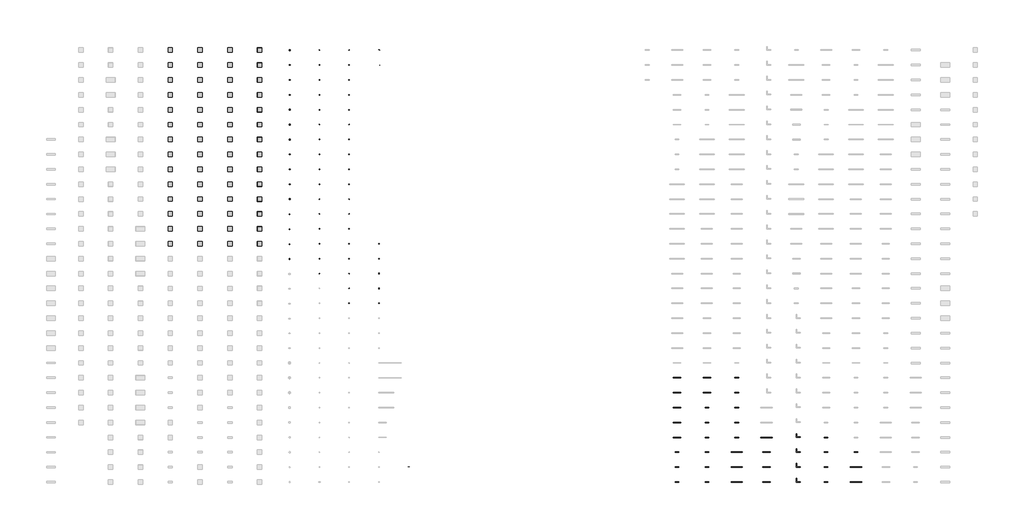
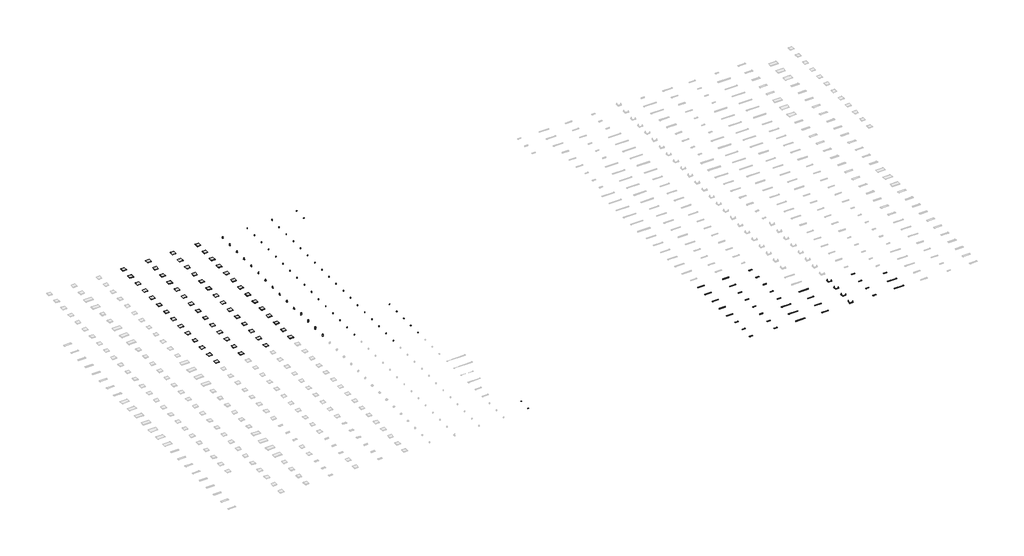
# One storey, part 5 of 7: 153 light fixtures.
"""IFC4 building model written with IfcOpenShell, lengths in millimetres."""

from ifc_helpers import new_model, si_unit, origin, place, context, project, spatial, transform, mapped, element, save
from components import light_fixture_58f65422, light_fixture_3ed5fcd1, light_fixture_10212c1c, light_fixture_f376c791, light_fixture_39556fc3, light_fixture_68ade39e, light_fixture_24229492, light_fixture_68bc1c10, light_fixture_a84a45fd, light_fixture_b95e81a3, light_fixture_23b743e3, light_fixture_90001b4d, light_fixture_045715e0, light_fixture_5221eba1, light_fixture_2bea209e, light_fixture_b40a6a63

model = new_model("IFC4")

# Units and contexts
model_context = context("Model", 3, world=origin())
ifc_project = project(units=[si_unit("LENGTHUNIT", "METRE", prefix="MILLI")], contexts=[model_context])

# Site, building, storey
site = spatial("IfcSite", under=ifc_project)
building = spatial("IfcBuilding", under=site)
storey = spatial("IfcBuildingStorey", under=building, Name="Уровень 1", Elevation=0.0)

# Light fixtures
placement = place(None, origin())
light_fixture_shape = light_fixture_58f65422(model_context)
element("IfcLightFixture", 1, ObjectType="GENILED_Светильник светодиодный_Офис Standart : Офис Standart 595x595x20 50Вт Ra90 Опал", at=placement, inside=storey, context=model_context, shape_type="MappedRepresentation", body=[
    mapped(light_fixture_shape, transform((64000.0, 32000.0, 0.0), x_axis=(1.0, 0.0, 0.0), y_axis=(0.0, 1.0, 0.0), z_axis=(0.0, 0.0, 1.0))),
])
element("IfcLightFixture", 2, ObjectType="GENILED_Светильник светодиодный_Офис Standart : Офис Standart 595x595x20 60Вт Ra90 Опал", at=placement, inside=storey, context=model_context, shape_type="MappedRepresentation", body=[
    mapped(light_fixture_shape, transform((64000.0, 34000.0, 0.0), x_axis=(1.0, 0.0, 0.0), y_axis=(0.0, 1.0, 0.0), z_axis=(0.0, 0.0, 1.0))),
])
element("IfcLightFixture", 3, ObjectType="GENILED_Светильник светодиодный_Офис Standart : Офис Standart 595x595x20 80Вт Ra90 Опал", at=placement, inside=storey, context=model_context, shape_type="MappedRepresentation", body=[
    mapped(light_fixture_shape, transform((64000.0, 36000.0, 0.0), x_axis=(1.0, 0.0, 0.0), y_axis=(0.0, 1.0, 0.0), z_axis=(0.0, 0.0, 1.0))),
])
element("IfcLightFixture", 4, ObjectType="GENILED_Светильник светодиодный_Офис Standart : Офис Standart 595x595x20 100Вт Ra90 Опал", at=placement, inside=storey, context=model_context, shape_type="MappedRepresentation", body=[
    mapped(light_fixture_shape, transform((64000.0, 38000.0, 0.0), x_axis=(1.0, 0.0, 0.0), y_axis=(0.0, 1.0, 0.0), z_axis=(0.0, 0.0, 1.0))),
])
light_fixture_2_shape = light_fixture_3ed5fcd1(model_context)
element("IfcLightFixture", 5, ObjectType="GENILED_Светильник светодиодный_Офис Standart : Офис Standart 595x595x40 30Вт Ra90 Опал", at=placement, inside=storey, context=model_context, shape_type="MappedRepresentation", body=[
    mapped(light_fixture_2_shape, transform((64000.0, 40000.0, 0.0), x_axis=(1.0, 0.0, 0.0), y_axis=(0.0, 1.0, 0.0), z_axis=(0.0, 0.0, 1.0))),
])
element("IfcLightFixture", 6, ObjectType="GENILED_Светильник светодиодный_Офис Standart : Офис Standart 595x595x40 40Вт Ra90 Опал", at=placement, inside=storey, context=model_context, shape_type="MappedRepresentation", body=[
    mapped(light_fixture_2_shape, transform((64000.0, 42000.0, 0.0), x_axis=(1.0, 0.0, 0.0), y_axis=(0.0, 1.0, 0.0), z_axis=(0.0, 0.0, 1.0))),
])
element("IfcLightFixture", 7, ObjectType="GENILED_Светильник светодиодный_Офис Standart : Офис Standart 595x595x40 50Вт Ra90 Опал", at=placement, inside=storey, context=model_context, shape_type="MappedRepresentation", body=[
    mapped(light_fixture_2_shape, transform((64000.0, 44000.0, 0.0), x_axis=(1.0, 0.0, 0.0), y_axis=(0.0, 1.0, 0.0), z_axis=(0.0, 0.0, 1.0))),
])
element("IfcLightFixture", 8, ObjectType="GENILED_Светильник светодиодный_Офис Standart : Офис Standart 595x595x40 60Вт Ra90 Опал", at=placement, inside=storey, context=model_context, shape_type="MappedRepresentation", body=[
    mapped(light_fixture_2_shape, transform((64000.0, 46000.0, 0.0), x_axis=(1.0, 0.0, 0.0), y_axis=(0.0, 1.0, 0.0), z_axis=(0.0, 0.0, 1.0))),
])
element("IfcLightFixture", 9, ObjectType="GENILED_Светильник светодиодный_Офис Standart : Офис Standart 595x595x40 80Вт Ra90 Опал", at=placement, inside=storey, context=model_context, shape_type="MappedRepresentation", body=[
    mapped(light_fixture_2_shape, transform((64000.0, 48000.0, 0.0), x_axis=(1.0, 0.0, 0.0), y_axis=(0.0, 1.0, 0.0), z_axis=(0.0, 0.0, 1.0))),
])
element("IfcLightFixture", 10, ObjectType="GENILED_Светильник светодиодный_Офис Standart : Офис Standart 595x595x40 100Вт Ra90 Опал", at=placement, inside=storey, context=model_context, shape_type="MappedRepresentation", body=[
    mapped(light_fixture_2_shape, transform((64000.0, 50000.0, 0.0), x_axis=(1.0, 0.0, 0.0), y_axis=(0.0, 1.0, 0.0), z_axis=(0.0, 0.0, 1.0))),
])
light_fixture_3_shape = light_fixture_10212c1c(model_context)
element("IfcLightFixture", 11, ObjectType="GENILED_Светильник светодиодный_Офис Standart : Офис Standart 595x595x45 30Вт Ra90 IP54 Опал", at=placement, inside=storey, context=model_context, shape_type="MappedRepresentation", body=[
    mapped(light_fixture_3_shape, transform((64000.0, 52000.0, 0.0), x_axis=(1.0, 0.0, 0.0), y_axis=(0.0, 1.0, 0.0), z_axis=(0.0, 0.0, 1.0))),
])
element("IfcLightFixture", 12, ObjectType="GENILED_Светильник светодиодный_Офис Standart : Офис Standart 595x595x45 40Вт Ra90 IP54 Опал", at=placement, inside=storey, context=model_context, shape_type="MappedRepresentation", body=[
    mapped(light_fixture_3_shape, transform((64000.0, 54000.0, 0.0), x_axis=(1.0, 0.0, 0.0), y_axis=(0.0, 1.0, 0.0), z_axis=(0.0, 0.0, 1.0))),
])
element("IfcLightFixture", 13, ObjectType="GENILED_Светильник светодиодный_Офис Standart : Офис Standart 595x595x45 50Вт Ra90 IP54 Опал", at=placement, inside=storey, context=model_context, shape_type="MappedRepresentation", body=[
    mapped(light_fixture_3_shape, transform((64000.0, 56000.0, 0.0), x_axis=(1.0, 0.0, 0.0), y_axis=(0.0, 1.0, 0.0), z_axis=(0.0, 0.0, 1.0))),
])
element("IfcLightFixture", 14, ObjectType="GENILED_Светильник светодиодный_Офис Standart : Офис Standart 595x595x45 60Вт Ra90 IP54 Опал", at=placement, inside=storey, context=model_context, shape_type="MappedRepresentation", body=[
    mapped(light_fixture_3_shape, transform((64000.0, 58000.0, 0.0), x_axis=(1.0, 0.0, 0.0), y_axis=(0.0, 1.0, 0.0), z_axis=(0.0, 0.0, 1.0))),
])
light_fixture_4_shape = light_fixture_f376c791(model_context)
element("IfcLightFixture", 15, ObjectType="GENILED_Светильник светодиодный_Офис Standart : Офис Standart 595x595x25 60Вт IP54 Опал", at=placement, inside=storey, context=model_context, shape_type="MappedRepresentation", body=[
    mapped(light_fixture_4_shape, transform((68000.0, 32000.0, 0.0), x_axis=(1.0, 0.0, 0.0), y_axis=(0.0, 1.0, 0.0), z_axis=(0.0, 0.0, 1.0))),
])
element("IfcLightFixture", 16, ObjectType="GENILED_Светильник светодиодный_Офис Standart : Офис Standart 595х595х25 50Вт IP54 Опал", at=placement, inside=storey, context=model_context, shape_type="MappedRepresentation", body=[
    mapped(light_fixture_4_shape, transform((68000.0, 34000.0, 0.0), x_axis=(1.0, 0.0, 0.0), y_axis=(0.0, 1.0, 0.0), z_axis=(0.0, 0.0, 1.0))),
])
element("IfcLightFixture", 17, ObjectType="GENILED_Светильник светодиодный_Офис Standart : Офис Standart 595x595x40 30Вт Опал", at=placement, inside=storey, context=model_context, shape_type="MappedRepresentation", body=[
    mapped(light_fixture_2_shape, transform((68000.0, 36000.0, 0.0), x_axis=(1.0, 0.0, 0.0), y_axis=(0.0, 1.0, 0.0), z_axis=(0.0, 0.0, 1.0))),
])
element("IfcLightFixture", 18, ObjectType="GENILED_Светильник светодиодный_Офис Standart : Офис Standart 595x595x40 40Вт Опал", at=placement, inside=storey, context=model_context, shape_type="MappedRepresentation", body=[
    mapped(light_fixture_2_shape, transform((68000.0, 38000.0, 0.0), x_axis=(1.0, 0.0, 0.0), y_axis=(0.0, 1.0, 0.0), z_axis=(0.0, 0.0, 1.0))),
])
element("IfcLightFixture", 19, ObjectType="GENILED_Светильник светодиодный_Офис Standart : Офис Standart 595x595x40 50Вт Опал", at=placement, inside=storey, context=model_context, shape_type="MappedRepresentation", body=[
    mapped(light_fixture_2_shape, transform((68000.0, 40000.0, 0.0), x_axis=(1.0, 0.0, 0.0), y_axis=(0.0, 1.0, 0.0), z_axis=(0.0, 0.0, 1.0))),
])
element("IfcLightFixture", 20, ObjectType="GENILED_Светильник светодиодный_Офис Standart : Офис Standart 595x595x40 60Вт Опал", at=placement, inside=storey, context=model_context, shape_type="MappedRepresentation", body=[
    mapped(light_fixture_2_shape, transform((68000.0, 42000.0, 0.0), x_axis=(1.0, 0.0, 0.0), y_axis=(0.0, 1.0, 0.0), z_axis=(0.0, 0.0, 1.0))),
])
element("IfcLightFixture", 21, ObjectType="GENILED_Светильник светодиодный_Офис Standart : Офис Standart 595x595x40 80Вт Опал", at=placement, inside=storey, context=model_context, shape_type="MappedRepresentation", body=[
    mapped(light_fixture_2_shape, transform((68000.0, 44000.0, 0.0), x_axis=(1.0, 0.0, 0.0), y_axis=(0.0, 1.0, 0.0), z_axis=(0.0, 0.0, 1.0))),
])
element("IfcLightFixture", 22, ObjectType="GENILED_Светильник светодиодный_Офис Standart : Офис Standart 595x595x40 100Вт Опал", at=placement, inside=storey, context=model_context, shape_type="MappedRepresentation", body=[
    mapped(light_fixture_2_shape, transform((68000.0, 46000.0, 0.0), x_axis=(1.0, 0.0, 0.0), y_axis=(0.0, 1.0, 0.0), z_axis=(0.0, 0.0, 1.0))),
])
element("IfcLightFixture", 23, ObjectType="GENILED_Светильник светодиодный_Офис Standart : Офис Standart 595x595x45 30Вт IP54 Опал", at=placement, inside=storey, context=model_context, shape_type="MappedRepresentation", body=[
    mapped(light_fixture_3_shape, transform((68000.0, 48000.0, 0.0), x_axis=(1.0, 0.0, 0.0), y_axis=(0.0, 1.0, 0.0), z_axis=(0.0, 0.0, 1.0))),
])
element("IfcLightFixture", 24, ObjectType="GENILED_Светильник светодиодный_Офис Standart : Офис Standart 595x595x45 40Вт IP54 Опал", at=placement, inside=storey, context=model_context, shape_type="MappedRepresentation", body=[
    mapped(light_fixture_3_shape, transform((68000.0, 50000.0, 0.0), x_axis=(1.0, 0.0, 0.0), y_axis=(0.0, 1.0, 0.0), z_axis=(0.0, 0.0, 1.0))),
])
element("IfcLightFixture", 25, ObjectType="GENILED_Светильник светодиодный_Офис Standart : Офис Standart 595x595x45 50Вт IP54 Опал", at=placement, inside=storey, context=model_context, shape_type="MappedRepresentation", body=[
    mapped(light_fixture_3_shape, transform((68000.0, 52000.0, 0.0), x_axis=(1.0, 0.0, 0.0), y_axis=(0.0, 1.0, 0.0), z_axis=(0.0, 0.0, 1.0))),
])
element("IfcLightFixture", 26, ObjectType="GENILED_Светильник светодиодный_Офис Standart : Офис Standart 595x595x45 60Вт IP54 Опал", at=placement, inside=storey, context=model_context, shape_type="MappedRepresentation", body=[
    mapped(light_fixture_3_shape, transform((68000.0, 54000.0, 0.0), x_axis=(1.0, 0.0, 0.0), y_axis=(0.0, 1.0, 0.0), z_axis=(0.0, 0.0, 1.0))),
])
element("IfcLightFixture", 27, ObjectType="GENILED_Светильник светодиодный_Офис Standart : Офис Standart 595x595x45 80Вт IP54 Опал", at=placement, inside=storey, context=model_context, shape_type="MappedRepresentation", body=[
    mapped(light_fixture_3_shape, transform((68000.0, 56000.0, 0.0), x_axis=(1.0, 0.0, 0.0), y_axis=(0.0, 1.0, 0.0), z_axis=(0.0, 0.0, 1.0))),
])
element("IfcLightFixture", 28, ObjectType="GENILED_Светильник светодиодный_Офис Standart : Офис Standart 595x595x45 100Вт IP54 Опал", at=placement, inside=storey, context=model_context, shape_type="MappedRepresentation", body=[
    mapped(light_fixture_3_shape, transform((68000.0, 58000.0, 0.0), x_axis=(1.0, 0.0, 0.0), y_axis=(0.0, 1.0, 0.0), z_axis=(0.0, 0.0, 1.0))),
])
element("IfcLightFixture", 29, ObjectType="GENILED_Светильник светодиодный_Офис Низковольтный : Офис 595x595x20 100Вт 12В Опал", at=placement, inside=storey, context=model_context, shape_type="MappedRepresentation", body=[
    mapped(light_fixture_shape, transform((72000.0, 32000.0, 0.0), x_axis=(1.0, 0.0, 0.0), y_axis=(0.0, 1.0, 0.0), z_axis=(0.0, 0.0, 1.0))),
])
element("IfcLightFixture", 30, ObjectType="GENILED_Светильник светодиодный_Офис Низковольтный : Офис 595x595x20 100Вт 24В Опал", at=placement, inside=storey, context=model_context, shape_type="MappedRepresentation", body=[
    mapped(light_fixture_shape, transform((72000.0, 34000.0, 0.0), x_axis=(1.0, 0.0, 0.0), y_axis=(0.0, 1.0, 0.0), z_axis=(0.0, 0.0, 1.0))),
])
element("IfcLightFixture", 31, ObjectType="GENILED_Светильник светодиодный_Офис Низковольтный : Офис 595x595x40 30Вт 12В Опал", at=placement, inside=storey, context=model_context, shape_type="MappedRepresentation", body=[
    mapped(light_fixture_2_shape, transform((72000.0, 36000.0, 0.0), x_axis=(1.0, 0.0, 0.0), y_axis=(0.0, 1.0, 0.0), z_axis=(0.0, 0.0, 1.0))),
])
element("IfcLightFixture", 32, ObjectType="GENILED_Светильник светодиодный_Офис Низковольтный : Офис 595x595x40 30Вт 36В Опал", at=placement, inside=storey, context=model_context, shape_type="MappedRepresentation", body=[
    mapped(light_fixture_2_shape, transform((72000.0, 38000.0, 0.0), x_axis=(1.0, 0.0, 0.0), y_axis=(0.0, 1.0, 0.0), z_axis=(0.0, 0.0, 1.0))),
])
element("IfcLightFixture", 33, ObjectType="GENILED_Светильник светодиодный_Офис Низковольтный : Офис 595x595x40 40Вт 12В Опал", at=placement, inside=storey, context=model_context, shape_type="MappedRepresentation", body=[
    mapped(light_fixture_2_shape, transform((72000.0, 40000.0, 0.0), x_axis=(1.0, 0.0, 0.0), y_axis=(0.0, 1.0, 0.0), z_axis=(0.0, 0.0, 1.0))),
])
element("IfcLightFixture", 34, ObjectType="GENILED_Светильник светодиодный_Офис Низковольтный : Офис 595x595x40 40Вт 24В Опал", at=placement, inside=storey, context=model_context, shape_type="MappedRepresentation", body=[
    mapped(light_fixture_2_shape, transform((72000.0, 42000.0, 0.0), x_axis=(1.0, 0.0, 0.0), y_axis=(0.0, 1.0, 0.0), z_axis=(0.0, 0.0, 1.0))),
])
element("IfcLightFixture", 35, ObjectType="GENILED_Светильник светодиодный_Офис Низковольтный : Офис 595x595x40 50Вт 12В Опал", at=placement, inside=storey, context=model_context, shape_type="MappedRepresentation", body=[
    mapped(light_fixture_2_shape, transform((72000.0, 44000.0, 0.0), x_axis=(1.0, 0.0, 0.0), y_axis=(0.0, 1.0, 0.0), z_axis=(0.0, 0.0, 1.0))),
])
element("IfcLightFixture", 36, ObjectType="GENILED_Светильник светодиодный_Офис Низковольтный : Офис 595x595x40 60Вт 12В Опал", at=placement, inside=storey, context=model_context, shape_type="MappedRepresentation", body=[
    mapped(light_fixture_2_shape, transform((72000.0, 46000.0, 0.0), x_axis=(1.0, 0.0, 0.0), y_axis=(0.0, 1.0, 0.0), z_axis=(0.0, 0.0, 1.0))),
])
element("IfcLightFixture", 37, ObjectType="GENILED_Светильник светодиодный_Офис Низковольтный : Офис 595x595x40 60Вт 24В Опал", at=placement, inside=storey, context=model_context, shape_type="MappedRepresentation", body=[
    mapped(light_fixture_2_shape, transform((72000.0, 48000.0, 0.0), x_axis=(1.0, 0.0, 0.0), y_axis=(0.0, 1.0, 0.0), z_axis=(0.0, 0.0, 1.0))),
])
element("IfcLightFixture", 38, ObjectType="GENILED_Светильник светодиодный_Офис Низковольтный : Офис 595x595x40 60Вт 36В Опал", at=placement, inside=storey, context=model_context, shape_type="MappedRepresentation", body=[
    mapped(light_fixture_2_shape, transform((72000.0, 50000.0, 0.0), x_axis=(1.0, 0.0, 0.0), y_axis=(0.0, 1.0, 0.0), z_axis=(0.0, 0.0, 1.0))),
])
element("IfcLightFixture", 39, ObjectType="GENILED_Светильник светодиодный_Офис Низковольтный : Офис 595x595x40 80Вт 12В Опал", at=placement, inside=storey, context=model_context, shape_type="MappedRepresentation", body=[
    mapped(light_fixture_2_shape, transform((72000.0, 52000.0, 0.0), x_axis=(1.0, 0.0, 0.0), y_axis=(0.0, 1.0, 0.0), z_axis=(0.0, 0.0, 1.0))),
])
element("IfcLightFixture", 40, ObjectType="GENILED_Светильник светодиодный_Офис Низковольтный : Офис 595x595x40 80Вт 24В Опал", at=placement, inside=storey, context=model_context, shape_type="MappedRepresentation", body=[
    mapped(light_fixture_2_shape, transform((72000.0, 54000.0, 0.0), x_axis=(1.0, 0.0, 0.0), y_axis=(0.0, 1.0, 0.0), z_axis=(0.0, 0.0, 1.0))),
])
element("IfcLightFixture", 41, ObjectType="GENILED_Светильник светодиодный_Офис Низковольтный : Офис 595x595x40 100Вт 12В Опал", at=placement, inside=storey, context=model_context, shape_type="MappedRepresentation", body=[
    mapped(light_fixture_2_shape, transform((72000.0, 56000.0, 0.0), x_axis=(1.0, 0.0, 0.0), y_axis=(0.0, 1.0, 0.0), z_axis=(0.0, 0.0, 1.0))),
])
element("IfcLightFixture", 42, ObjectType="GENILED_Светильник светодиодный_Офис Низковольтный : Офис 595x595x40 100Вт 24В Опал", at=placement, inside=storey, context=model_context, shape_type="MappedRepresentation", body=[
    mapped(light_fixture_2_shape, transform((72000.0, 58000.0, 0.0), x_axis=(1.0, 0.0, 0.0), y_axis=(0.0, 1.0, 0.0), z_axis=(0.0, 0.0, 1.0))),
])
light_fixture_5_shape = light_fixture_39556fc3(model_context)
element("IfcLightFixture", 43, ObjectType="GENILED_Светильник светодиодный_Экофон Advanced : Экофон Advanced 80Вт Опал", at=placement, inside=storey, context=model_context, shape_type="MappedRepresentation", body=[
    mapped(light_fixture_5_shape, transform((76000.0, 32000.0, 0.0), x_axis=(1.0, 0.0, 0.0), y_axis=(0.0, 1.0, 0.0), z_axis=(0.0, 0.0, 1.0))),
])
element("IfcLightFixture", 44, ObjectType="GENILED_Светильник светодиодный_Экофон Advanced : Экофон Advanced 100Вт Опал", at=placement, inside=storey, context=model_context, shape_type="MappedRepresentation", body=[
    mapped(light_fixture_5_shape, transform((76000.0, 34000.0, 0.0), x_axis=(1.0, 0.0, 0.0), y_axis=(0.0, 1.0, 0.0), z_axis=(0.0, 0.0, 1.0))),
])
element("IfcLightFixture", 45, ObjectType="GENILED_Светильник светодиодный_Экофон Standart : Экофон Standart 30Вт Опал", at=placement, inside=storey, context=model_context, shape_type="MappedRepresentation", body=[
    mapped(light_fixture_5_shape, transform((76000.0, 36000.0, 0.0), x_axis=(1.0, 0.0, 0.0), y_axis=(0.0, 1.0, 0.0), z_axis=(0.0, 0.0, 1.0))),
])
element("IfcLightFixture", 46, ObjectType="GENILED_Светильник светодиодный_Экофон Standart : Экофон Standart 40Вт Опал", at=placement, inside=storey, context=model_context, shape_type="MappedRepresentation", body=[
    mapped(light_fixture_5_shape, transform((76000.0, 38000.0, 0.0), x_axis=(1.0, 0.0, 0.0), y_axis=(0.0, 1.0, 0.0), z_axis=(0.0, 0.0, 1.0))),
])
element("IfcLightFixture", 47, ObjectType="GENILED_Светильник светодиодный_Экофон Standart : Экофон Standart 50Вт Опал", at=placement, inside=storey, context=model_context, shape_type="MappedRepresentation", body=[
    mapped(light_fixture_5_shape, transform((76000.0, 40000.0, 0.0), x_axis=(1.0, 0.0, 0.0), y_axis=(0.0, 1.0, 0.0), z_axis=(0.0, 0.0, 1.0))),
])
element("IfcLightFixture", 48, ObjectType="GENILED_Светильник светодиодный_Экофон Standart : Экофон Standart 60Вт Опал", at=placement, inside=storey, context=model_context, shape_type="MappedRepresentation", body=[
    mapped(light_fixture_5_shape, transform((76000.0, 42000.0, 0.0), x_axis=(1.0, 0.0, 0.0), y_axis=(0.0, 1.0, 0.0), z_axis=(0.0, 0.0, 1.0))),
])
element("IfcLightFixture", 49, ObjectType="GENILED_Светильник светодиодный_Экофон Standart : Экофон Standart 80Вт Опал", at=placement, inside=storey, context=model_context, shape_type="MappedRepresentation", body=[
    mapped(light_fixture_5_shape, transform((76000.0, 44000.0, 0.0), x_axis=(1.0, 0.0, 0.0), y_axis=(0.0, 1.0, 0.0), z_axis=(0.0, 0.0, 1.0))),
])
element("IfcLightFixture", 50, ObjectType="GENILED_Светильник светодиодный_Экофон Standart : Экофон Standart 100Вт Опал", at=placement, inside=storey, context=model_context, shape_type="MappedRepresentation", body=[
    mapped(light_fixture_5_shape, transform((76000.0, 46000.0, 0.0), x_axis=(1.0, 0.0, 0.0), y_axis=(0.0, 1.0, 0.0), z_axis=(0.0, 0.0, 1.0))),
])
element("IfcLightFixture", 51, ObjectType="GENILED_Светильник светодиодный_Экофон Standart : Экофон Standart 30Вт 90Ra Опал", at=placement, inside=storey, context=model_context, shape_type="MappedRepresentation", body=[
    mapped(light_fixture_5_shape, transform((76000.0, 48000.0, 0.0), x_axis=(1.0, 0.0, 0.0), y_axis=(0.0, 1.0, 0.0), z_axis=(0.0, 0.0, 1.0))),
])
element("IfcLightFixture", 52, ObjectType="GENILED_Светильник светодиодный_Экофон Standart : Экофон Standart 40Вт 90Ra Опал", at=placement, inside=storey, context=model_context, shape_type="MappedRepresentation", body=[
    mapped(light_fixture_5_shape, transform((76000.0, 50000.0, 0.0), x_axis=(1.0, 0.0, 0.0), y_axis=(0.0, 1.0, 0.0), z_axis=(0.0, 0.0, 1.0))),
])
element("IfcLightFixture", 53, ObjectType="GENILED_Светильник светодиодный_Экофон Standart : Экофон Standart 50Вт 90Ra Опал", at=placement, inside=storey, context=model_context, shape_type="MappedRepresentation", body=[
    mapped(light_fixture_5_shape, transform((76000.0, 52000.0, 0.0), x_axis=(1.0, 0.0, 0.0), y_axis=(0.0, 1.0, 0.0), z_axis=(0.0, 0.0, 1.0))),
])
element("IfcLightFixture", 54, ObjectType="GENILED_Светильник светодиодный_Экофон Standart : Экофон Standart 60Вт 90Ra Опал", at=placement, inside=storey, context=model_context, shape_type="MappedRepresentation", body=[
    mapped(light_fixture_5_shape, transform((76000.0, 54000.0, 0.0), x_axis=(1.0, 0.0, 0.0), y_axis=(0.0, 1.0, 0.0), z_axis=(0.0, 0.0, 1.0))),
])
element("IfcLightFixture", 55, ObjectType="GENILED_Светильник светодиодный_Экофон Standart : Экофон Standart 80Вт 90Ra Опал", at=placement, inside=storey, context=model_context, shape_type="MappedRepresentation", body=[
    mapped(light_fixture_5_shape, transform((76000.0, 56000.0, 0.0), x_axis=(1.0, 0.0, 0.0), y_axis=(0.0, 1.0, 0.0), z_axis=(0.0, 0.0, 1.0))),
])
element("IfcLightFixture", 56, ObjectType="GENILED_Светильник светодиодный_Экофон Standart : Экофон Standart 100Вт 90Ra Опал", at=placement, inside=storey, context=model_context, shape_type="MappedRepresentation", body=[
    mapped(light_fixture_5_shape, transform((76000.0, 58000.0, 0.0), x_axis=(1.0, 0.0, 0.0), y_axis=(0.0, 1.0, 0.0), z_axis=(0.0, 0.0, 1.0))),
])
light_fixture_6_shape = light_fixture_68ade39e(model_context)
element("IfcLightFixture", 57, ObjectType="GENILED_Светильник светодиодный_Sova : Sova 127x95x356 18Вт/3000К/4000К/5000К IP66", at=placement, inside=storey, context=model_context, shape_type="MappedRepresentation", body=[
    mapped(light_fixture_6_shape, transform((80000.0, 30000.0, 0.0), x_axis=(1.0, 0.0, 0.0), y_axis=(0.0, 1.0, 0.0), z_axis=(0.0, 0.0, 1.0))),
])
element("IfcLightFixture", 58, ObjectType="GENILED_Светильник светодиодный_Sova : Sova 127x95x356 20Вт/3000К/4000К/5000К IP66", at=placement, inside=storey, context=model_context, shape_type="MappedRepresentation", body=[
    mapped(light_fixture_6_shape, transform((80000.0, 32000.0, 0.0), x_axis=(1.0, 0.0, 0.0), y_axis=(0.0, 1.0, 0.0), z_axis=(0.0, 0.0, 1.0))),
])
element("IfcLightFixture", 59, ObjectType="GENILED_Светильник светодиодный_Sova : Sova 127x95x356 22Вт/3000К/4000К/5000К IP66", at=placement, inside=storey, context=model_context, shape_type="MappedRepresentation", body=[
    mapped(light_fixture_6_shape, transform((80000.0, 34000.0, 0.0), x_axis=(1.0, 0.0, 0.0), y_axis=(0.0, 1.0, 0.0), z_axis=(0.0, 0.0, 1.0))),
])
element("IfcLightFixture", 60, ObjectType="GENILED_Светильник светодиодный_Sova : Sova 127x95x356 22Вт/3000К/4000К/5000К IP66 Smart", at=placement, inside=storey, context=model_context, shape_type="MappedRepresentation", body=[
    mapped(light_fixture_6_shape, transform((80000.0, 36000.0, 0.0), x_axis=(1.0, 0.0, 0.0), y_axis=(0.0, 1.0, 0.0), z_axis=(0.0, 0.0, 1.0))),
])
light_fixture_7_shape = light_fixture_24229492(model_context)
element("IfcLightFixture", 61, ObjectType="GENILED_Светильник светодиодный_Track Classic Zoom : Track Classic Zoom 10Вт 90Ra_60x25_Чашка", at=placement, inside=storey, context=model_context, shape_type="MappedRepresentation", body=[
    mapped(light_fixture_7_shape, transform((80000.0, 38000.0, 0.0), x_axis=(1.0, 0.0, 0.0), y_axis=(0.0, 1.0, 0.0), z_axis=(0.0, 0.0, 1.0))),
])
element("IfcLightFixture", 62, ObjectType="GENILED_Светильник светодиодный_Track Classic Zoom : Track Classic Zoom 10Вт 90Ra_60x25_Чашка_Белая", at=placement, inside=storey, context=model_context, shape_type="MappedRepresentation", body=[
    mapped(light_fixture_7_shape, transform((80000.0, 40000.0, 0.0), x_axis=(1.0, 0.0, 0.0), y_axis=(0.0, 1.0, 0.0), z_axis=(0.0, 0.0, 1.0))),
])
element("IfcLightFixture", 63, ObjectType="GENILED_Светильник светодиодный_Track Classic Zoom : Track Classic Zoom 20Вт 90Ra_60x25_Чашка", at=placement, inside=storey, context=model_context, shape_type="MappedRepresentation", body=[
    mapped(light_fixture_7_shape, transform((80000.0, 42000.0, 0.0), x_axis=(1.0, 0.0, 0.0), y_axis=(0.0, 1.0, 0.0), z_axis=(0.0, 0.0, 1.0))),
])
element("IfcLightFixture", 64, ObjectType="GENILED_Светильник светодиодный_Track Classic Zoom : Track Classic Zoom 20Вт 90Ra_60x25_Чашка_Белая", at=placement, inside=storey, context=model_context, shape_type="MappedRepresentation", body=[
    mapped(light_fixture_7_shape, transform((80000.0, 44000.0, 0.0), x_axis=(1.0, 0.0, 0.0), y_axis=(0.0, 1.0, 0.0), z_axis=(0.0, 0.0, 1.0))),
])
light_fixture_8_shape = light_fixture_68bc1c10(model_context)
element("IfcLightFixture", 65, ObjectType="GENILED_Светильник светодиодный_Track Classic Zoom : Track Classic Zoom 10Вт 90Ra_60x25_Шинопровод", at=placement, inside=storey, context=model_context, shape_type="MappedRepresentation", body=[
    mapped(light_fixture_8_shape, transform((80000.0, 46000.0, 0.0), x_axis=(1.0, 0.0, 0.0), y_axis=(0.0, 1.0, 0.0), z_axis=(0.0, 0.0, 1.0))),
])
element("IfcLightFixture", 66, ObjectType="GENILED_Светильник светодиодный_Track Classic Zoom : Track Classic Zoom 10Вт 90Ra_60x25_Шинопровод_Белый", at=placement, inside=storey, context=model_context, shape_type="MappedRepresentation", body=[
    mapped(light_fixture_8_shape, transform((80000.0, 48000.0, 0.0), x_axis=(1.0, 0.0, 0.0), y_axis=(0.0, 1.0, 0.0), z_axis=(0.0, 0.0, 1.0))),
])
element("IfcLightFixture", 67, ObjectType="GENILED_Светильник светодиодный_Track Classic Zoom : Track Classic Zoom 20Вт 90Ra_60x25_Шинопровод", at=placement, inside=storey, context=model_context, shape_type="MappedRepresentation", body=[
    mapped(light_fixture_8_shape, transform((80000.0, 50000.0, 0.0), x_axis=(1.0, 0.0, 0.0), y_axis=(0.0, 1.0, 0.0), z_axis=(0.0, 0.0, 1.0))),
])
element("IfcLightFixture", 68, ObjectType="GENILED_Светильник светодиодный_Track Classic Zoom : Track Classic Zoom 20Вт 90Ra_60x25_Шинопровод_Белый", at=placement, inside=storey, context=model_context, shape_type="MappedRepresentation", body=[
    mapped(light_fixture_8_shape, transform((80000.0, 52000.0, 0.0), x_axis=(1.0, 0.0, 0.0), y_axis=(0.0, 1.0, 0.0), z_axis=(0.0, 0.0, 1.0))),
])
element("IfcLightFixture", 69, ObjectType="GENILED_Светильник светодиодный_Track Classic Zoom : Track Classic Zoom 30Вт 90Ra_60x25_Шинопровод", at=placement, inside=storey, context=model_context, shape_type="MappedRepresentation", body=[
    mapped(light_fixture_8_shape, transform((80000.0, 54000.0, 0.0), x_axis=(1.0, 0.0, 0.0), y_axis=(0.0, 1.0, 0.0), z_axis=(0.0, 0.0, 1.0))),
])
element("IfcLightFixture", 70, ObjectType="GENILED_Светильник светодиодный_Track Classic Zoom : Track Classic Zoom 30Вт 90Ra_60x25_Шинопровод_Белый", at=placement, inside=storey, context=model_context, shape_type="MappedRepresentation", body=[
    mapped(light_fixture_8_shape, transform((80000.0, 56000.0, 0.0), x_axis=(1.0, 0.0, 0.0), y_axis=(0.0, 1.0, 0.0), z_axis=(0.0, 0.0, 1.0))),
])
element("IfcLightFixture", 71, ObjectType="GENILED_Светильник светодиодный_Track Classic Zoom : Track Classic Zoom 40Вт 90Ra_60x25_Шинопровод", at=placement, inside=storey, context=model_context, shape_type="MappedRepresentation", body=[
    mapped(light_fixture_8_shape, transform((80000.0, 58000.0, 0.0), x_axis=(1.0, 0.0, 0.0), y_axis=(0.0, 1.0, 0.0), z_axis=(0.0, 0.0, 1.0))),
])
light_fixture_9_shape = light_fixture_a84a45fd(model_context)
element("IfcLightFixture", 72, ObjectType="GENILED_Светодиодная лампа : Светодиодная лампа E27 A60 10Вт 2700К", at=placement, inside=storey, context=model_context, shape_type="MappedRepresentation", body=[
    mapped(light_fixture_9_shape, transform((84000.0, 28000.0, 0.0), x_axis=(1.0, 0.0, 0.0), y_axis=(0.0, 1.0, 0.0), z_axis=(0.0, 0.0, 1.0))),
])
element("IfcLightFixture", 73, ObjectType="GENILED_Светодиодная лампа : Светодиодная лампа E27 A60 12Вт 2700К", at=placement, inside=storey, context=model_context, shape_type="MappedRepresentation", body=[
    mapped(light_fixture_9_shape, transform((84000.0, 30000.0, 0.0), x_axis=(1.0, 0.0, 0.0), y_axis=(0.0, 1.0, 0.0), z_axis=(0.0, 0.0, 1.0))),
])
element("IfcLightFixture", 74, ObjectType="GENILED_Светодиодная лампа : Светодиодная лампа E27 A70 16Вт 2700К", at=placement, inside=storey, context=model_context, shape_type="MappedRepresentation", body=[
    mapped(light_fixture_9_shape, transform((84000.0, 32000.0, 0.0), x_axis=(1.0, 0.0, 0.0), y_axis=(0.0, 1.0, 0.0), z_axis=(0.0, 0.0, 1.0))),
])
element("IfcLightFixture", 75, ObjectType="GENILED_Светодиодная лампа : Светодиодная лампа E27 A80 20Вт 2700К", at=placement, inside=storey, context=model_context, shape_type="MappedRepresentation", body=[
    mapped(light_fixture_9_shape, transform((84000.0, 34000.0, 0.0), x_axis=(1.0, 0.0, 0.0), y_axis=(0.0, 1.0, 0.0), z_axis=(0.0, 0.0, 1.0))),
])
element("IfcLightFixture", 76, ObjectType="GENILED_Светодиодная лампа : Светодиодная лампа E27 A60 10Вт 3000K 90Ra", at=placement, inside=storey, context=model_context, shape_type="MappedRepresentation", body=[
    mapped(light_fixture_9_shape, transform((84000.0, 36000.0, 0.0), x_axis=(1.0, 0.0, 0.0), y_axis=(0.0, 1.0, 0.0), z_axis=(0.0, 0.0, 1.0))),
])
element("IfcLightFixture", 77, ObjectType="GENILED_Светодиодная лампа : Светодиодная лампа E27 A60 12Вт 3000K 90Ra", at=placement, inside=storey, context=model_context, shape_type="MappedRepresentation", body=[
    mapped(light_fixture_9_shape, transform((84000.0, 38000.0, 0.0), x_axis=(1.0, 0.0, 0.0), y_axis=(0.0, 1.0, 0.0), z_axis=(0.0, 0.0, 1.0))),
])
element("IfcLightFixture", 78, ObjectType="GENILED_Светодиодная лампа : Светодиодная лампа E27 A60 16Вт 3000K 90Ra", at=placement, inside=storey, context=model_context, shape_type="MappedRepresentation", body=[
    mapped(light_fixture_9_shape, transform((84000.0, 40000.0, 0.0), x_axis=(1.0, 0.0, 0.0), y_axis=(0.0, 1.0, 0.0), z_axis=(0.0, 0.0, 1.0))),
])
element("IfcLightFixture", 79, ObjectType="GENILED_Светодиодная лампа : Светодиодная лампа E14 C37 6Вт 3000K 90Ra", at=placement, inside=storey, context=model_context, shape_type="MappedRepresentation", body=[
    mapped(light_fixture_9_shape, transform((84000.0, 42000.0, 0.0), x_axis=(1.0, 0.0, 0.0), y_axis=(0.0, 1.0, 0.0), z_axis=(0.0, 0.0, 1.0))),
])
element("IfcLightFixture", 80, ObjectType="GENILED_Светодиодная лампа : Светодиодная лампа E14 C37 9Вт 3000K 90Ra", at=placement, inside=storey, context=model_context, shape_type="MappedRepresentation", body=[
    mapped(light_fixture_9_shape, transform((84000.0, 44000.0, 0.0), x_axis=(1.0, 0.0, 0.0), y_axis=(0.0, 1.0, 0.0), z_axis=(0.0, 0.0, 1.0))),
])
element("IfcLightFixture", 81, ObjectType="GENILED_Светодиодная лампа : Светодиодная лампа E27 G45 6Вт 3000K 90Ra", at=placement, inside=storey, context=model_context, shape_type="MappedRepresentation", body=[
    mapped(light_fixture_9_shape, transform((84000.0, 46000.0, 0.0), x_axis=(1.0, 0.0, 0.0), y_axis=(0.0, 1.0, 0.0), z_axis=(0.0, 0.0, 1.0))),
])
element("IfcLightFixture", 82, ObjectType="GENILED_Светодиодная лампа : Светодиодная лампа E14 G45 6Вт 3000K 90Ra", at=placement, inside=storey, context=model_context, shape_type="MappedRepresentation", body=[
    mapped(light_fixture_9_shape, transform((84000.0, 48000.0, 0.0), x_axis=(1.0, 0.0, 0.0), y_axis=(0.0, 1.0, 0.0), z_axis=(0.0, 0.0, 1.0))),
])
element("IfcLightFixture", 83, ObjectType="GENILED_Светодиодная лампа : Светодиодная лампа E14 G45 9Вт 3000K 90Ra", at=placement, inside=storey, context=model_context, shape_type="MappedRepresentation", body=[
    mapped(light_fixture_9_shape, transform((84000.0, 50000.0, 0.0), x_axis=(1.0, 0.0, 0.0), y_axis=(0.0, 1.0, 0.0), z_axis=(0.0, 0.0, 1.0))),
])
element("IfcLightFixture", 84, ObjectType="GENILED_Светодиодная лампа : Светодиодная лампа E27 G45 9Вт 3000K 90Ra", at=placement, inside=storey, context=model_context, shape_type="MappedRepresentation", body=[
    mapped(light_fixture_9_shape, transform((84000.0, 52000.0, 0.0), x_axis=(1.0, 0.0, 0.0), y_axis=(0.0, 1.0, 0.0), z_axis=(0.0, 0.0, 1.0))),
])
element("IfcLightFixture", 85, ObjectType="GENILED_Светодиодная лампа : Светодиодная лампа GU10 MR16 6Вт 3000K 90Ra", at=placement, inside=storey, context=model_context, shape_type="MappedRepresentation", body=[
    mapped(light_fixture_9_shape, transform((84000.0, 54000.0, 0.0), x_axis=(1.0, 0.0, 0.0), y_axis=(0.0, 1.0, 0.0), z_axis=(0.0, 0.0, 1.0))),
])
element("IfcLightFixture", 86, ObjectType="GENILED_Светодиодная лампа : Светодиодная лампа GU5.3 MR16 6Вт 3000K 90Ra", at=placement, inside=storey, context=model_context, shape_type="MappedRepresentation", body=[
    mapped(light_fixture_9_shape, transform((84000.0, 56000.0, 0.0), x_axis=(1.0, 0.0, 0.0), y_axis=(0.0, 1.0, 0.0), z_axis=(0.0, 0.0, 1.0))),
])
element("IfcLightFixture", 87, ObjectType="GENILED_Светодиодная лампа : Светодиодная лампа GU10 MR16 6Вт 3000K 90Ra линза", at=placement, inside=storey, context=model_context, shape_type="MappedRepresentation", body=[
    mapped(light_fixture_9_shape, transform((84000.0, 58000.0, 0.0), x_axis=(1.0, 0.0, 0.0), y_axis=(0.0, 1.0, 0.0), z_axis=(0.0, 0.0, 1.0))),
])
element("IfcLightFixture", 88, ObjectType="GENILED_Светодиодная лампа : Светодиодная лампа E14 G45 9Вт 4000K 90Ra", at=placement, inside=storey, context=model_context, shape_type="MappedRepresentation", body=[
    mapped(light_fixture_9_shape, transform((88000.0, 24000.0, 0.0), x_axis=(1.0, 0.0, 0.0), y_axis=(0.0, 1.0, 0.0), z_axis=(0.0, 0.0, 1.0))),
])
element("IfcLightFixture", 89, ObjectType="GENILED_Светодиодная лампа : Светодиодная лампа E27 G45 9Вт 4000K 90Ra", at=placement, inside=storey, context=model_context, shape_type="MappedRepresentation", body=[
    mapped(light_fixture_9_shape, transform((88000.0, 26000.0, 0.0), x_axis=(1.0, 0.0, 0.0), y_axis=(0.0, 1.0, 0.0), z_axis=(0.0, 0.0, 1.0))),
])
element("IfcLightFixture", 90, ObjectType="GENILED_Светодиодная лампа : Светодиодная лампа GU10 MR16 6Вт 4000K 90Ra", at=placement, inside=storey, context=model_context, shape_type="MappedRepresentation", body=[
    mapped(light_fixture_9_shape, transform((88000.0, 28000.0, 0.0), x_axis=(1.0, 0.0, 0.0), y_axis=(0.0, 1.0, 0.0), z_axis=(0.0, 0.0, 1.0))),
])
element("IfcLightFixture", 91, ObjectType="GENILED_Светодиодная лампа : Светодиодная лампа GU5.3 MR16 6Вт 4000K 90Ra", at=placement, inside=storey, context=model_context, shape_type="MappedRepresentation", body=[
    mapped(light_fixture_9_shape, transform((88000.0, 30000.0, 0.0), x_axis=(1.0, 0.0, 0.0), y_axis=(0.0, 1.0, 0.0), z_axis=(0.0, 0.0, 1.0))),
])
element("IfcLightFixture", 92, ObjectType="GENILED_Светодиодная лампа : Светодиодная лампа GU10 MR16 6Вт 4000K 90Ra линза", at=placement, inside=storey, context=model_context, shape_type="MappedRepresentation", body=[
    mapped(light_fixture_9_shape, transform((88000.0, 32000.0, 0.0), x_axis=(1.0, 0.0, 0.0), y_axis=(0.0, 1.0, 0.0), z_axis=(0.0, 0.0, 1.0))),
])
element("IfcLightFixture", 93, ObjectType="GENILED_Светодиодная лампа : Светодиодная лампа GU10 MR16 9Вт 4000K 90Ra", at=placement, inside=storey, context=model_context, shape_type="MappedRepresentation", body=[
    mapped(light_fixture_9_shape, transform((88000.0, 34000.0, 0.0), x_axis=(1.0, 0.0, 0.0), y_axis=(0.0, 1.0, 0.0), z_axis=(0.0, 0.0, 1.0))),
])
element("IfcLightFixture", 94, ObjectType="GENILED_Светодиодная лампа : Светодиодная лампа GU10 MR16 9Вт 4000K 90Ra линза", at=placement, inside=storey, context=model_context, shape_type="MappedRepresentation", body=[
    mapped(light_fixture_9_shape, transform((88000.0, 36000.0, 0.0), x_axis=(1.0, 0.0, 0.0), y_axis=(0.0, 1.0, 0.0), z_axis=(0.0, 0.0, 1.0))),
])
element("IfcLightFixture", 95, ObjectType="GENILED_Светодиодная лампа : Светодиодная лампа GU5.3 MR16 9Вт 4000K 90Ra", at=placement, inside=storey, context=model_context, shape_type="MappedRepresentation", body=[
    mapped(light_fixture_9_shape, transform((88000.0, 38000.0, 0.0), x_axis=(1.0, 0.0, 0.0), y_axis=(0.0, 1.0, 0.0), z_axis=(0.0, 0.0, 1.0))),
])
element("IfcLightFixture", 96, ObjectType="GENILED_Светодиодная лампа : Светодиодная лампа GX53 8Вт 4000K 90Ra", at=placement, inside=storey, context=model_context, shape_type="MappedRepresentation", body=[
    mapped(light_fixture_9_shape, transform((88000.0, 40000.0, 0.0), x_axis=(1.0, 0.0, 0.0), y_axis=(0.0, 1.0, 0.0), z_axis=(0.0, 0.0, 1.0))),
])
element("IfcLightFixture", 97, ObjectType="GENILED_Светодиодная лампа : Светодиодная лампа GX53 10Вт 4000K 90Ra", at=placement, inside=storey, context=model_context, shape_type="MappedRepresentation", body=[
    mapped(light_fixture_9_shape, transform((88000.0, 42000.0, 0.0), x_axis=(1.0, 0.0, 0.0), y_axis=(0.0, 1.0, 0.0), z_axis=(0.0, 0.0, 1.0))),
])
element("IfcLightFixture", 98, ObjectType="GENILED_Светодиодная лампа : Светодиодная лампа E14 C37 6Вт 4200К матовая", at=placement, inside=storey, context=model_context, shape_type="MappedRepresentation", body=[
    mapped(light_fixture_9_shape, transform((88000.0, 44000.0, 0.0), x_axis=(1.0, 0.0, 0.0), y_axis=(0.0, 1.0, 0.0), z_axis=(0.0, 0.0, 1.0))),
])
element("IfcLightFixture", 99, ObjectType="GENILED_Светодиодная лампа : Светодиодная лампа E14 G45 6Вт 4200К матовая", at=placement, inside=storey, context=model_context, shape_type="MappedRepresentation", body=[
    mapped(light_fixture_9_shape, transform((88000.0, 46000.0, 0.0), x_axis=(1.0, 0.0, 0.0), y_axis=(0.0, 1.0, 0.0), z_axis=(0.0, 0.0, 1.0))),
])
element("IfcLightFixture", 100, ObjectType="GENILED_Светодиодная лампа : Светодиодная лампа E27 G45 6Вт 4200К матовая", at=placement, inside=storey, context=model_context, shape_type="MappedRepresentation", body=[
    mapped(light_fixture_9_shape, transform((88000.0, 48000.0, 0.0), x_axis=(1.0, 0.0, 0.0), y_axis=(0.0, 1.0, 0.0), z_axis=(0.0, 0.0, 1.0))),
])
element("IfcLightFixture", 101, ObjectType="GENILED_Светодиодная лампа : Светодиодная лампа GU5.3 MR16 9Вт 4200К", at=placement, inside=storey, context=model_context, shape_type="MappedRepresentation", body=[
    mapped(light_fixture_9_shape, transform((88000.0, 50000.0, 0.0), x_axis=(1.0, 0.0, 0.0), y_axis=(0.0, 1.0, 0.0), z_axis=(0.0, 0.0, 1.0))),
])
element("IfcLightFixture", 102, ObjectType="GENILED_Светодиодная лампа : Светодиодная лампа GU10 MR16 9Вт 4200К", at=placement, inside=storey, context=model_context, shape_type="MappedRepresentation", body=[
    mapped(light_fixture_9_shape, transform((88000.0, 52000.0, 0.0), x_axis=(1.0, 0.0, 0.0), y_axis=(0.0, 1.0, 0.0), z_axis=(0.0, 0.0, 1.0))),
])
element("IfcLightFixture", 103, ObjectType="GENILED_Светодиодная лампа : Светодиодная лампа E14 C37 9Вт 4200К матовая", at=placement, inside=storey, context=model_context, shape_type="MappedRepresentation", body=[
    mapped(light_fixture_9_shape, transform((88000.0, 54000.0, 0.0), x_axis=(1.0, 0.0, 0.0), y_axis=(0.0, 1.0, 0.0), z_axis=(0.0, 0.0, 1.0))),
])
element("IfcLightFixture", 104, ObjectType="GENILED_Светодиодная лампа : Светодиодная лампа E27 G45 9Вт 4200К матовая", at=placement, inside=storey, context=model_context, shape_type="MappedRepresentation", body=[
    mapped(light_fixture_9_shape, transform((88000.0, 56000.0, 0.0), x_axis=(1.0, 0.0, 0.0), y_axis=(0.0, 1.0, 0.0), z_axis=(0.0, 0.0, 1.0))),
])
element("IfcLightFixture", 105, ObjectType="GENILED_Светодиодная лампа : Светодиодная лампа E14 G45 9Вт 4200К матовая", at=placement, inside=storey, context=model_context, shape_type="MappedRepresentation", body=[
    mapped(light_fixture_9_shape, transform((88000.0, 58000.0, 0.0), x_axis=(1.0, 0.0, 0.0), y_axis=(0.0, 1.0, 0.0), z_axis=(0.0, 0.0, 1.0))),
])
light_fixture_10_shape = light_fixture_b95e81a3(model_context)
element("IfcLightFixture", 106, ObjectType="GENILED_Светильник светодиодный_Griliato Tetris : Griliato Tetris x1 для ячейки 100x100 10Вт 3000К Микропризма", at=placement, inside=storey, context=model_context, shape_type="MappedRepresentation", body=[
    mapped(light_fixture_10_shape, transform((92000.0, 24000.0, 0.0), x_axis=(1.0, 0.0, 0.0), y_axis=(0.0, 1.0, 0.0), z_axis=(0.0, 0.0, 1.0))),
])
element("IfcLightFixture", 107, ObjectType="GENILED_Светильник светодиодный_Griliato Tetris : Griliato Tetris x1 для ячейки 100x100 10Вт 4000К Опал", at=placement, inside=storey, context=model_context, shape_type="MappedRepresentation", body=[
    mapped(light_fixture_10_shape, transform((92000.0, 26000.0, 0.0), x_axis=(1.0, 0.0, 0.0), y_axis=(0.0, 1.0, 0.0), z_axis=(0.0, 0.0, 1.0))),
])
element("IfcLightFixture", 108, ObjectType="GENILED_Светильник светодиодный_Griliato Tetris : Griliato Tetris x1 для ячейки 100x100 10Вт 4000К Микропризма", at=placement, inside=storey, context=model_context, shape_type="MappedRepresentation", body=[
    mapped(light_fixture_10_shape, transform((92000.0, 28000.0, 0.0), x_axis=(1.0, 0.0, 0.0), y_axis=(0.0, 1.0, 0.0), z_axis=(0.0, 0.0, 1.0))),
])
element("IfcLightFixture", 109, ObjectType="GENILED_Светильник светодиодный_Griliato Tetris : Griliato Tetris x1 для ячейки 100x100 10Вт 5000К Опал", at=placement, inside=storey, context=model_context, shape_type="MappedRepresentation", body=[
    mapped(light_fixture_10_shape, transform((92000.0, 30000.0, 0.0), x_axis=(1.0, 0.0, 0.0), y_axis=(0.0, 1.0, 0.0), z_axis=(0.0, 0.0, 1.0))),
])
element("IfcLightFixture", 110, ObjectType="GENILED_Светильник светодиодный_Griliato Tetris : Griliato Tetris x1 для ячейки 100x100 10Вт 5000К Микропризма", at=placement, inside=storey, context=model_context, shape_type="MappedRepresentation", body=[
    mapped(light_fixture_10_shape, transform((92000.0, 32000.0, 0.0), x_axis=(1.0, 0.0, 0.0), y_axis=(0.0, 1.0, 0.0), z_axis=(0.0, 0.0, 1.0))),
])
light_fixture_11_shape = light_fixture_23b743e3(model_context)
element("IfcLightFixture", 111, ObjectType="GENILED_Светильник светодиодный_Kolokol : Kolokol 120Вт (80-120Вт) 5000К 75Ra Линза 60°", at=placement, inside=storey, context=model_context, shape_type="MappedRepresentation", body=[
    mapped(light_fixture_11_shape, transform((92000.0, 56000.0, 0.0), x_axis=(1.0, 0.0, 0.0), y_axis=(0.0, 1.0, 0.0), z_axis=(0.0, 0.0, 1.0))),
])
element("IfcLightFixture", 112, ObjectType="GENILED_Светильник светодиодный_Kolokol : Kolokol 120Вт (80-120Вт) 5000К 75Ra Линза 90°", at=placement, inside=storey, context=model_context, shape_type="MappedRepresentation", body=[
    mapped(light_fixture_11_shape, transform((92000.0, 58000.0, 0.0), x_axis=(1.0, 0.0, 0.0), y_axis=(0.0, 1.0, 0.0), z_axis=(0.0, 0.0, 1.0))),
])
element("IfcLightFixture", 113, ObjectType="GENILED_Светильник светодиодный_Kolokol : Kolokol 120Вт (80-120Вт) 5000К 75Ra Линза 120°", at=placement, inside=storey, context=model_context, shape_type="MappedRepresentation", body=[
    mapped(light_fixture_11_shape, transform((96000.0, 0.0, 0.0), x_axis=(1.0, 0.0, 0.0), y_axis=(0.0, 1.0, 0.0), z_axis=(0.0, 0.0, 1.0))),
])
element("IfcLightFixture", 114, ObjectType="GENILED_Светильник светодиодный_Kolokol : Kolokol 120Вт (80-120Вт) 5000К 75Ra Закаленное стекло", at=placement, inside=storey, context=model_context, shape_type="MappedRepresentation", body=[
    mapped(light_fixture_11_shape, transform((96000.0, 2000.0, 0.0), x_axis=(1.0, 0.0, 0.0), y_axis=(0.0, 1.0, 0.0), z_axis=(0.0, 0.0, 1.0))),
])
light_fixture_12_shape = light_fixture_90001b4d(model_context)
element("IfcLightFixture", 115, ObjectType="GENILED_Светильник светодиодный_Trade Linear Advanced : Trade Linear Advanced 490х65х60 10Вт Deep Черный 3000К", at=placement, inside=storey, context=model_context, shape_type="MappedRepresentation", body=[
    mapped(light_fixture_12_shape, transform((132000.0, 0.0, 0.0), x_axis=(1.0, 0.0, 0.0), y_axis=(0.0, 1.0, 0.0), z_axis=(0.0, 0.0, 1.0))),
])
element("IfcLightFixture", 116, ObjectType="GENILED_Светильник светодиодный_Trade Linear Advanced : Trade Linear Advanced 490х65х60 20Вт Deep Черный 3000К", at=placement, inside=storey, context=model_context, shape_type="MappedRepresentation", body=[
    mapped(light_fixture_12_shape, transform((132000.0, 2000.0, 0.0), x_axis=(1.0, 0.0, 0.0), y_axis=(0.0, 1.0, 0.0), z_axis=(0.0, 0.0, 1.0))),
])
element("IfcLightFixture", 117, ObjectType="GENILED_Светильник светодиодный_Trade Linear Advanced : Trade Linear Advanced 490х65х60 30Вт Deep Черный 3000К", at=placement, inside=storey, context=model_context, shape_type="MappedRepresentation", body=[
    mapped(light_fixture_12_shape, transform((132000.0, 4000.0, 0.0), x_axis=(1.0, 0.0, 0.0), y_axis=(0.0, 1.0, 0.0), z_axis=(0.0, 0.0, 1.0))),
])
light_fixture_13_shape = light_fixture_045715e0(model_context)
element("IfcLightFixture", 118, ObjectType="GENILED_Светильник светодиодный_Trade Linear Advanced : Trade Linear Advanced 980х65х60 20Вт Черный 3000К", at=placement, inside=storey, context=model_context, shape_type="MappedRepresentation", body=[
    mapped(light_fixture_13_shape, transform((132000.0, 6000.0, 0.0), x_axis=(1.0, 0.0, 0.0), y_axis=(0.0, 1.0, 0.0), z_axis=(0.0, 0.0, 1.0))),
])
element("IfcLightFixture", 119, ObjectType="GENILED_Светильник светодиодный_Trade Linear Advanced : Trade Linear Advanced 980х65х60 40Вт Черный 3000К", at=placement, inside=storey, context=model_context, shape_type="MappedRepresentation", body=[
    mapped(light_fixture_13_shape, transform((132000.0, 8000.0, 0.0), x_axis=(1.0, 0.0, 0.0), y_axis=(0.0, 1.0, 0.0), z_axis=(0.0, 0.0, 1.0))),
])
element("IfcLightFixture", 120, ObjectType="GENILED_Светильник светодиодный_Trade Linear Advanced : Trade Linear Advanced 980х65х60 60Вт Черный 3000К", at=placement, inside=storey, context=model_context, shape_type="MappedRepresentation", body=[
    mapped(light_fixture_13_shape, transform((132000.0, 10000.0, 0.0), x_axis=(1.0, 0.0, 0.0), y_axis=(0.0, 1.0, 0.0), z_axis=(0.0, 0.0, 1.0))),
])
element("IfcLightFixture", 121, ObjectType="GENILED_Светильник светодиодный_Trade Linear Advanced : Trade Linear Advanced 980х65х60 20Вт Deep Черный 3000К", at=placement, inside=storey, context=model_context, shape_type="MappedRepresentation", body=[
    mapped(light_fixture_13_shape, transform((132000.0, 12000.0, 0.0), x_axis=(1.0, 0.0, 0.0), y_axis=(0.0, 1.0, 0.0), z_axis=(0.0, 0.0, 1.0))),
])
element("IfcLightFixture", 122, ObjectType="GENILED_Светильник светодиодный_Trade Linear Advanced : Trade Linear Advanced 980х65х60 40Вт Deep Черный 3000К", at=placement, inside=storey, context=model_context, shape_type="MappedRepresentation", body=[
    mapped(light_fixture_13_shape, transform((132000.0, 14000.0, 0.0), x_axis=(1.0, 0.0, 0.0), y_axis=(0.0, 1.0, 0.0), z_axis=(0.0, 0.0, 1.0))),
])
element("IfcLightFixture", 123, ObjectType="GENILED_Светильник светодиодный_Trade Linear Advanced : Trade Linear Advanced 490x65x60 10Вт Черный 4000К", at=placement, inside=storey, context=model_context, shape_type="MappedRepresentation", body=[
    mapped(light_fixture_12_shape, transform((136000.0, 0.0, 0.0), x_axis=(1.0, 0.0, 0.0), y_axis=(0.0, 1.0, 0.0), z_axis=(0.0, 0.0, 1.0))),
])
element("IfcLightFixture", 124, ObjectType="GENILED_Светильник светодиодный_Trade Linear Advanced : Trade Linear Advanced 490x65x60 20Вт Черный 4000К", at=placement, inside=storey, context=model_context, shape_type="MappedRepresentation", body=[
    mapped(light_fixture_12_shape, transform((136000.0, 2000.0, 0.0), x_axis=(1.0, 0.0, 0.0), y_axis=(0.0, 1.0, 0.0), z_axis=(0.0, 0.0, 1.0))),
])
element("IfcLightFixture", 125, ObjectType="GENILED_Светильник светодиодный_Trade Linear Advanced : Trade Linear Advanced 490x65x60 30Вт Черный 4000К", at=placement, inside=storey, context=model_context, shape_type="MappedRepresentation", body=[
    mapped(light_fixture_12_shape, transform((136000.0, 4000.0, 0.0), x_axis=(1.0, 0.0, 0.0), y_axis=(0.0, 1.0, 0.0), z_axis=(0.0, 0.0, 1.0))),
])
element("IfcLightFixture", 126, ObjectType="GENILED_Светильник светодиодный_Trade Linear Advanced : Trade Linear Advanced 490x65x60 10Вт Deep Черный 4000К", at=placement, inside=storey, context=model_context, shape_type="MappedRepresentation", body=[
    mapped(light_fixture_12_shape, transform((136000.0, 6000.0, 0.0), x_axis=(1.0, 0.0, 0.0), y_axis=(0.0, 1.0, 0.0), z_axis=(0.0, 0.0, 1.0))),
])
element("IfcLightFixture", 127, ObjectType="GENILED_Светильник светодиодный_Trade Linear Advanced : Trade Linear Advanced 490x65x60 20Вт Deep Черный 4000К", at=placement, inside=storey, context=model_context, shape_type="MappedRepresentation", body=[
    mapped(light_fixture_12_shape, transform((136000.0, 8000.0, 0.0), x_axis=(1.0, 0.0, 0.0), y_axis=(0.0, 1.0, 0.0), z_axis=(0.0, 0.0, 1.0))),
])
element("IfcLightFixture", 128, ObjectType="GENILED_Светильник светодиодный_Trade Linear Advanced : Trade Linear Advanced 490x65x60 30Вт Deep Черный 4000К", at=placement, inside=storey, context=model_context, shape_type="MappedRepresentation", body=[
    mapped(light_fixture_12_shape, transform((136000.0, 10000.0, 0.0), x_axis=(1.0, 0.0, 0.0), y_axis=(0.0, 1.0, 0.0), z_axis=(0.0, 0.0, 1.0))),
])
element("IfcLightFixture", 129, ObjectType="GENILED_Светильник светодиодный_Trade Linear Advanced : Trade Linear Advanced 980x65x60 20Вт Черный 4000К", at=placement, inside=storey, context=model_context, shape_type="MappedRepresentation", body=[
    mapped(light_fixture_13_shape, transform((136000.0, 12000.0, 0.0), x_axis=(1.0, 0.0, 0.0), y_axis=(0.0, 1.0, 0.0), z_axis=(0.0, 0.0, 1.0))),
])
element("IfcLightFixture", 130, ObjectType="GENILED_Светильник светодиодный_Trade Linear Advanced : Trade Linear Advanced 980x65x60 40Вт Черный 4000К", at=placement, inside=storey, context=model_context, shape_type="MappedRepresentation", body=[
    mapped(light_fixture_13_shape, transform((136000.0, 14000.0, 0.0), x_axis=(1.0, 0.0, 0.0), y_axis=(0.0, 1.0, 0.0), z_axis=(0.0, 0.0, 1.0))),
])
light_fixture_14_shape = light_fixture_5221eba1(model_context)
element("IfcLightFixture", 131, ObjectType="GENILED_Светильник светодиодный_Trade Linear Advanced : Trade Linear Advanced 1500x65x60 30Вт IP54 Черный 4000К", at=placement, inside=storey, context=model_context, shape_type="MappedRepresentation", body=[
    mapped(light_fixture_14_shape, transform((140000.0, 0.0, 0.0), x_axis=(1.0, 0.0, 0.0), y_axis=(0.0, 1.0, 0.0), z_axis=(0.0, 0.0, 1.0))),
])
element("IfcLightFixture", 132, ObjectType="GENILED_Светильник светодиодный_Trade Linear Advanced : Trade Linear Advanced 1500x65x60 60Вт IP54 Черный 4000К", at=placement, inside=storey, context=model_context, shape_type="MappedRepresentation", body=[
    mapped(light_fixture_14_shape, transform((140000.0, 2000.0, 0.0), x_axis=(1.0, 0.0, 0.0), y_axis=(0.0, 1.0, 0.0), z_axis=(0.0, 0.0, 1.0))),
])
element("IfcLightFixture", 133, ObjectType="GENILED_Светильник светодиодный_Trade Linear Advanced : Trade Linear Advanced 1500x65x60 90Вт IP54 Черный 4000К", at=placement, inside=storey, context=model_context, shape_type="MappedRepresentation", body=[
    mapped(light_fixture_14_shape, transform((140000.0, 4000.0, 0.0), x_axis=(1.0, 0.0, 0.0), y_axis=(0.0, 1.0, 0.0), z_axis=(0.0, 0.0, 1.0))),
])
element("IfcLightFixture", 134, ObjectType="GENILED_Светильник светодиодный_Trade Linear Advanced : Trade Linear Advanced 490x65x60 10Вт Черный 5000К", at=placement, inside=storey, context=model_context, shape_type="MappedRepresentation", body=[
    mapped(light_fixture_12_shape, transform((140000.0, 6000.0, 0.0), x_axis=(1.0, 0.0, 0.0), y_axis=(0.0, 1.0, 0.0), z_axis=(0.0, 0.0, 1.0))),
])
element("IfcLightFixture", 135, ObjectType="GENILED_Светильник светодиодный_Trade Linear Advanced : Trade Linear Advanced 490x65x60 20Вт Черный 5000К", at=placement, inside=storey, context=model_context, shape_type="MappedRepresentation", body=[
    mapped(light_fixture_12_shape, transform((140000.0, 8000.0, 0.0), x_axis=(1.0, 0.0, 0.0), y_axis=(0.0, 1.0, 0.0), z_axis=(0.0, 0.0, 1.0))),
])
element("IfcLightFixture", 136, ObjectType="GENILED_Светильник светодиодный_Trade Linear Advanced : Trade Linear Advanced 490x65x60 30Вт Черный 5000К", at=placement, inside=storey, context=model_context, shape_type="MappedRepresentation", body=[
    mapped(light_fixture_12_shape, transform((140000.0, 10000.0, 0.0), x_axis=(1.0, 0.0, 0.0), y_axis=(0.0, 1.0, 0.0), z_axis=(0.0, 0.0, 1.0))),
])
element("IfcLightFixture", 137, ObjectType="GENILED_Светильник светодиодный_Trade Linear Advanced : Trade Linear Advanced 490x65x60 10Вт Deep Черный 5000К", at=placement, inside=storey, context=model_context, shape_type="MappedRepresentation", body=[
    mapped(light_fixture_12_shape, transform((140000.0, 12000.0, 0.0), x_axis=(1.0, 0.0, 0.0), y_axis=(0.0, 1.0, 0.0), z_axis=(0.0, 0.0, 1.0))),
])
element("IfcLightFixture", 138, ObjectType="GENILED_Светильник светодиодный_Trade Linear Advanced : Trade Linear Advanced 490x65x60 20Вт Deep Черный 5000К", at=placement, inside=storey, context=model_context, shape_type="MappedRepresentation", body=[
    mapped(light_fixture_12_shape, transform((140000.0, 14000.0, 0.0), x_axis=(1.0, 0.0, 0.0), y_axis=(0.0, 1.0, 0.0), z_axis=(0.0, 0.0, 1.0))),
])
light_fixture_15_shape = light_fixture_2bea209e(model_context)
element("IfcLightFixture", 139, ObjectType="GENILED_Светильник светодиодный_Trade Linear Advanced : Trade Linear Advanced 1000x65x60 20Вт IP54 Черный 5000К", at=placement, inside=storey, context=model_context, shape_type="MappedRepresentation", body=[
    mapped(light_fixture_15_shape, transform((144000.0, 0.0, 0.0), x_axis=(1.0, 0.0, 0.0), y_axis=(0.0, 1.0, 0.0), z_axis=(0.0, 0.0, 1.0))),
])
element("IfcLightFixture", 140, ObjectType="GENILED_Светильник светодиодный_Trade Linear Advanced : Trade Linear Advanced 1000x65x60 40Вт IP54 Черный 5000К", at=placement, inside=storey, context=model_context, shape_type="MappedRepresentation", body=[
    mapped(light_fixture_15_shape, transform((144000.0, 2000.0, 0.0), x_axis=(1.0, 0.0, 0.0), y_axis=(0.0, 1.0, 0.0), z_axis=(0.0, 0.0, 1.0))),
])
element("IfcLightFixture", 141, ObjectType="GENILED_Светильник светодиодный_Trade Linear Advanced : Trade Linear Advanced 1000x65x60 60Вт IP54 Черный 5000К", at=placement, inside=storey, context=model_context, shape_type="MappedRepresentation", body=[
    mapped(light_fixture_15_shape, transform((144000.0, 4000.0, 0.0), x_axis=(1.0, 0.0, 0.0), y_axis=(0.0, 1.0, 0.0), z_axis=(0.0, 0.0, 1.0))),
])
element("IfcLightFixture", 142, ObjectType="GENILED_Светильник светодиодный_Trade Linear Advanced : Trade Linear Advanced 1500x65x60 30Вт IP54 Черный 5000К", at=placement, inside=storey, context=model_context, shape_type="MappedRepresentation", body=[
    mapped(light_fixture_14_shape, transform((144000.0, 6000.0, 0.0), x_axis=(1.0, 0.0, 0.0), y_axis=(0.0, 1.0, 0.0), z_axis=(0.0, 0.0, 1.0))),
])
light_fixture_16_shape = light_fixture_b40a6a63(model_context)
element("IfcLightFixture", 143, ObjectType="GENILED_Светильник светодиодный_Trade Linear L Standart : Trade Linear Standart 492-542x65x60 20Вт 90Ra Белый 4000К", at=placement, inside=storey, context=model_context, shape_type="MappedRepresentation", body=[
    mapped(light_fixture_16_shape, transform((148000.0, 0.0, 0.0), x_axis=(1.0, 0.0, 0.0), y_axis=(0.0, 1.0, 0.0), z_axis=(0.0, 0.0, 1.0))),
])
element("IfcLightFixture", 144, ObjectType="GENILED_Светильник светодиодный_Trade Linear L Standart : Trade Linear Standart 492-542x65x60 40Вт 90Ra Белый 4000К", at=placement, inside=storey, context=model_context, shape_type="MappedRepresentation", body=[
    mapped(light_fixture_16_shape, transform((148000.0, 2000.0, 0.0), x_axis=(1.0, 0.0, 0.0), y_axis=(0.0, 1.0, 0.0), z_axis=(0.0, 0.0, 1.0))),
])
element("IfcLightFixture", 145, ObjectType="GENILED_Светильник светодиодный_Trade Linear L Standart : Trade Linear Standart 492-542x65x60 60Вт 90Ra Белый 4000К", at=placement, inside=storey, context=model_context, shape_type="MappedRepresentation", body=[
    mapped(light_fixture_16_shape, transform((148000.0, 4000.0, 0.0), x_axis=(1.0, 0.0, 0.0), y_axis=(0.0, 1.0, 0.0), z_axis=(0.0, 0.0, 1.0))),
])
element("IfcLightFixture", 146, ObjectType="GENILED_Светильник светодиодный_Trade Linear L Standart : Trade Linear Standart 492-542x65x60 20Вт 90Ra Deep Белый 4000К", at=placement, inside=storey, context=model_context, shape_type="MappedRepresentation", body=[
    mapped(light_fixture_16_shape, transform((148000.0, 6000.0, 0.0), x_axis=(1.0, 0.0, 0.0), y_axis=(0.0, 1.0, 0.0), z_axis=(0.0, 0.0, 1.0))),
])
element("IfcLightFixture", 147, ObjectType="GENILED_Светильник светодиодный_Trade Linear Standart : Trade Linear Standart 490x65x60 20Вт Черный 3000К", at=placement, inside=storey, context=model_context, shape_type="MappedRepresentation", body=[
    mapped(light_fixture_12_shape, transform((152000.0, 0.0, 0.0), x_axis=(1.0, 0.0, 0.0), y_axis=(0.0, 1.0, 0.0), z_axis=(0.0, 0.0, 1.0))),
])
element("IfcLightFixture", 148, ObjectType="GENILED_Светильник светодиодный_Trade Linear Standart : Trade Linear Standart 490x65x60 30Вт Черный 3000К", at=placement, inside=storey, context=model_context, shape_type="MappedRepresentation", body=[
    mapped(light_fixture_12_shape, transform((152000.0, 2000.0, 0.0), x_axis=(1.0, 0.0, 0.0), y_axis=(0.0, 1.0, 0.0), z_axis=(0.0, 0.0, 1.0))),
])
element("IfcLightFixture", 149, ObjectType="GENILED_Светильник светодиодный_Trade Linear Standart : Trade Linear Standart 490x65x60 10Вт Deep Черный 3000К", at=placement, inside=storey, context=model_context, shape_type="MappedRepresentation", body=[
    mapped(light_fixture_12_shape, transform((152000.0, 4000.0, 0.0), x_axis=(1.0, 0.0, 0.0), y_axis=(0.0, 1.0, 0.0), z_axis=(0.0, 0.0, 1.0))),
])
element("IfcLightFixture", 150, ObjectType="GENILED_Светильник светодиодный_Trade Linear Standart : Trade Linear Standart 490x65x60 20Вт Deep Черный 3000К", at=placement, inside=storey, context=model_context, shape_type="MappedRepresentation", body=[
    mapped(light_fixture_12_shape, transform((152000.0, 6000.0, 0.0), x_axis=(1.0, 0.0, 0.0), y_axis=(0.0, 1.0, 0.0), z_axis=(0.0, 0.0, 1.0))),
])
element("IfcLightFixture", 151, ObjectType="GENILED_Светильник светодиодный_Trade Linear Standart : Trade Linear Standart 1500x65x60 60Вт IP54 Черный 3000К", at=placement, inside=storey, context=model_context, shape_type="MappedRepresentation", body=[
    mapped(light_fixture_14_shape, transform((156000.0, 0.0, 0.0), x_axis=(1.0, 0.0, 0.0), y_axis=(0.0, 1.0, 0.0), z_axis=(0.0, 0.0, 1.0))),
])
element("IfcLightFixture", 152, ObjectType="GENILED_Светильник светодиодный_Trade Linear Standart : Trade Linear Standart 1500x65x60 90Вт IP54 Черный 3000К", at=placement, inside=storey, context=model_context, shape_type="MappedRepresentation", body=[
    mapped(light_fixture_14_shape, transform((156000.0, 2000.0, 0.0), x_axis=(1.0, 0.0, 0.0), y_axis=(0.0, 1.0, 0.0), z_axis=(0.0, 0.0, 1.0))),
])
element("IfcLightFixture", 153, ObjectType="GENILED_Светильник светодиодный_Trade Linear Standart : Trade Linear Standart 490x65x60 10Вт 90Ra Белый 4000К", at=placement, inside=storey, context=model_context, shape_type="MappedRepresentation", body=[
    mapped(light_fixture_12_shape, transform((156000.0, 4000.0, 0.0), x_axis=(1.0, 0.0, 0.0), y_axis=(0.0, 1.0, 0.0), z_axis=(0.0, 0.0, 1.0))),
])

save(model, "model.ifc")
